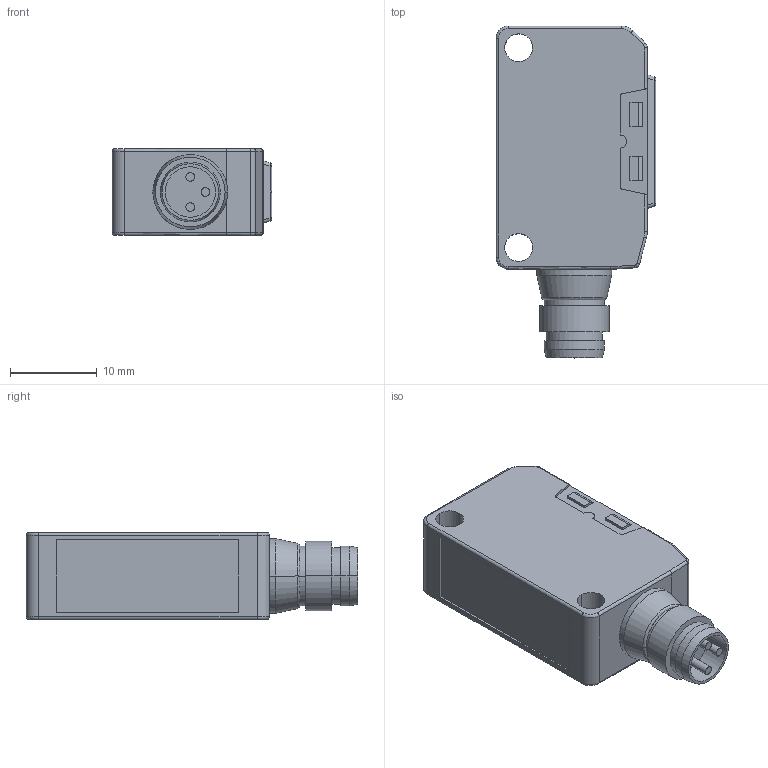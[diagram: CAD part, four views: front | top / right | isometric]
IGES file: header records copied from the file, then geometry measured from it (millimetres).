
Start section: Elysium IGES Interface
Global section: file name: 73HH:\Documents and Settings\y-shirakawa\デスクトップ\S_Sender_connector.igs; native system: CoCreate Modeling 16.50A  01-Dec-2009; preprocessor: CoCreate IGES_3D V2.2; author: Unknown; organization: Unknown; date: 20101202.112525; units: millimetre
Bounding box: 18.4 x 38.2 x 10 mm (x, y, z)
Volume: 5077.8 mm3; surface area: 2383 mm2
Topology: 1 solids, 1 shells, 148 faces, 347 edges, 216 vertices
Faces by surface type: bspline 148
